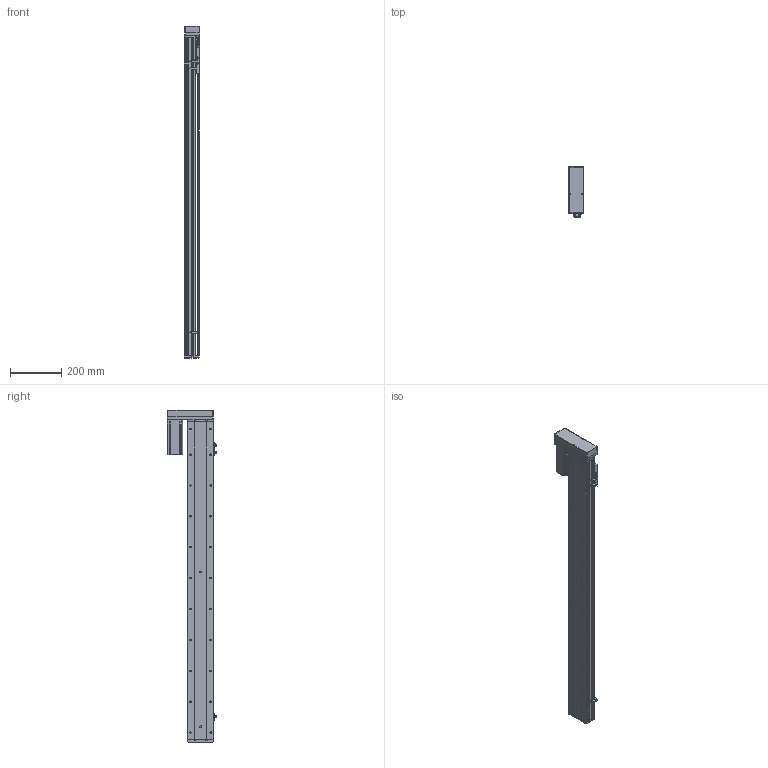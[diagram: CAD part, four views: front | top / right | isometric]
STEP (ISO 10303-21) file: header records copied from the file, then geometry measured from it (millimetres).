
FILE_DESCRIPTION (( 'STEP AP214' ), '1' );
FILE_NAME ('KSD100S-S1050-ML-CM.STEP', '2019-08-30T06:40:34', ( '微软用户' ), ( '微软中国' ), 'SwSTEP 2.0', 'SolidWorks 2014', '' );
FILE_SCHEMA (( 'AUTOMOTIVE_DESIGN' ));
Length unit declared in the file: millimetre
Products named in the file (11): 100遵鎮湛假蚾啣; 100宽滚珠螺姆安装板半封闭; 100遵傷啣; 100宽底板半封闭丝杆1050行程; KSD100S-S1050-ML-CM; 悵誘欶酘衵殏; 台达ECMA－C20604AS伺服电机; 100宽马达安装板连板左右折丝杆; U倰嫖萇EEㄜSX672; 覜茼え100遵圉猾敕; 100宽防尘板丝杆1050行程
Assembly tree (12 placements, depth 2):
  KSD100S-S1050-ML-CM
    100宽底板半封闭丝杆1050行程
    100遵傷啣
    100宽滚珠螺姆安装板半封闭
    100遵鎮湛假蚾啣
    100宽防尘板丝杆1050行程
    覜茼え100遵圉猾敕
    U倰嫖萇EEㄜSX672  x3
    100宽马达安装板连板左右折丝杆
    台达ECMA－C20604AS伺服电机
    悵誘欶酘衵殏
Bounding box: 62 x 193.7 x 1290.5 mm (x, y, z)
Volume: 2960933 mm3; surface area: 977941.8 mm2
Topology: 13 solids, 13 shells, 1377 faces, 3896 edges, 2451 vertices
Faces by surface type: cylinder 694, plane 520, cone 163
Entity records: 48941 total; most frequent: CARTESIAN_POINT 10017, DIRECTION 6607, ORIENTED_EDGE 6372, EDGE_CURVE 3186, AXIS2_PLACEMENT_3D 2421, VERTEX_POINT 2075, VECTOR 1765, LINE 1765
